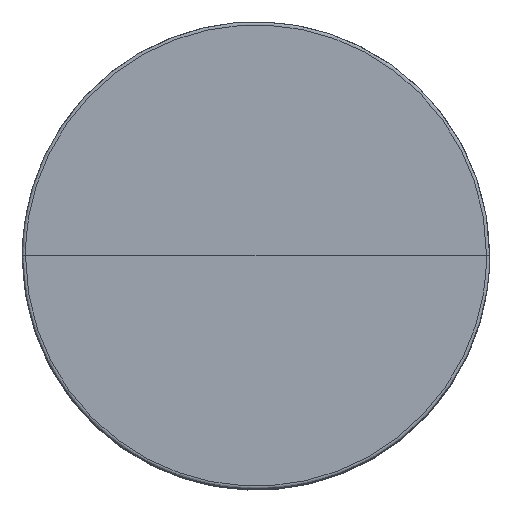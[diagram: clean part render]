
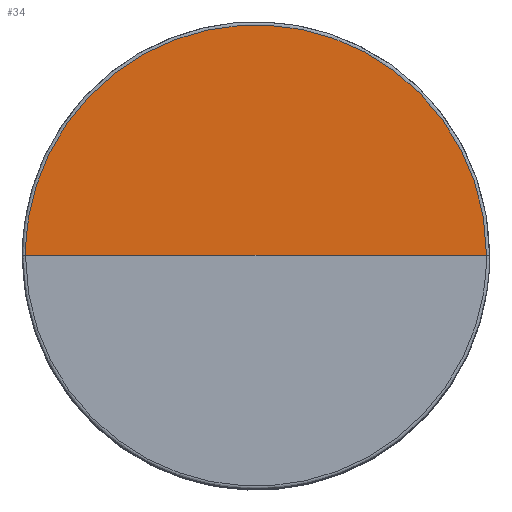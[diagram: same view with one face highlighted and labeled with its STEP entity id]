
A CAD part, top view. The second image highlights one B-rep face of the part: STEP entity #34.
In plain terms, the highlighted free-form (B-spline) face has degree [2, 1] with [5, 2] control points.
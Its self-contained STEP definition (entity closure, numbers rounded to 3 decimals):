
#34=ADVANCED_FACE('',(#72),#482,.T.);
#72=FACE_OUTER_BOUND('',#110,.T.);
#110=EDGE_LOOP('',(#203,#204,#205));
#203=ORIENTED_EDGE('',*,*,#315,.T.);
#204=ORIENTED_EDGE('',*,*,#278,.T.);
#205=ORIENTED_EDGE('',*,*,#314,.F.);
#278=EDGE_CURVE('',#427,#426,#410,.T.);
#314=EDGE_CURVE('',#445,#426,#417,.T.);
#315=EDGE_CURVE('',#445,#427,#380,.T.);
#380=(
BOUNDED_CURVE()
B_SPLINE_CURVE(2,(#1438,#1439,#1440,#1441,#1442),.UNSPECIFIED.,.F.,.F.)
B_SPLINE_CURVE_WITH_KNOTS((3,2,3),(549.779,824.668,1099.557),
 .UNSPECIFIED.)
CURVE()
GEOMETRIC_REPRESENTATION_ITEM()
RATIONAL_B_SPLINE_CURVE((1.,0.707,1.,0.707,1.))
REPRESENTATION_ITEM('')
);
#410=B_SPLINE_CURVE_WITH_KNOTS('',1,(#1277,#1278),.UNSPECIFIED.,.F.,.F.,
(2,2),(726.42,899.086),.UNSPECIFIED.);
#417=B_SPLINE_CURVE_WITH_KNOTS('',1,(#1436,#1437),.UNSPECIFIED.,.F.,.F.,
(2,2),(726.42,899.086),.UNSPECIFIED.);
#426=VERTEX_POINT('',#1238);
#427=VERTEX_POINT('',#1239);
#445=VERTEX_POINT('',#1257);
#482=(
BOUNDED_SURFACE()
B_SPLINE_SURFACE(2,1,((#882,#883),(#884,#885),(#886,#887),(#888,#889),(#890,
#891)),.UNSPECIFIED.,.F.,.F.,.F.)
B_SPLINE_SURFACE_WITH_KNOTS((3,2,3),(2,2),(549.779,824.668,
1099.557),(726.42,899.086),.UNSPECIFIED.)
GEOMETRIC_REPRESENTATION_ITEM()
RATIONAL_B_SPLINE_SURFACE(((1.,1.),(0.707,0.707),
(1.,1.),(0.707,0.707),(1.,1.)))
REPRESENTATION_ITEM('')
SURFACE()
);
#882=CARTESIAN_POINT('',(172.667,0.,430.));
#883=CARTESIAN_POINT('',(0.,0.,430.));
#884=CARTESIAN_POINT('',(172.667,172.667,430.));
#885=CARTESIAN_POINT('',(0.,0.,430.));
#886=CARTESIAN_POINT('',(0.,172.667,430.));
#887=CARTESIAN_POINT('',(0.,0.,430.));
#888=CARTESIAN_POINT('',(-172.667,172.667,430.));
#889=CARTESIAN_POINT('',(0.,0.,430.));
#890=CARTESIAN_POINT('',(-172.667,0.,430.));
#891=CARTESIAN_POINT('',(0.,0.,430.));
#1238=CARTESIAN_POINT('',(0.,0.,430.));
#1239=CARTESIAN_POINT('',(-172.667,0.,430.));
#1257=CARTESIAN_POINT('',(172.667,0.,430.));
#1277=CARTESIAN_POINT('',(-172.667,0.,430.));
#1278=CARTESIAN_POINT('',(0.,0.,430.));
#1436=CARTESIAN_POINT('',(172.667,0.,430.));
#1437=CARTESIAN_POINT('',(0.,0.,430.));
#1438=CARTESIAN_POINT('',(172.667,0.,430.));
#1439=CARTESIAN_POINT('',(172.667,172.667,430.));
#1440=CARTESIAN_POINT('',(0.,172.667,430.));
#1441=CARTESIAN_POINT('',(-172.667,172.667,430.));
#1442=CARTESIAN_POINT('',(-172.667,0.,430.));
